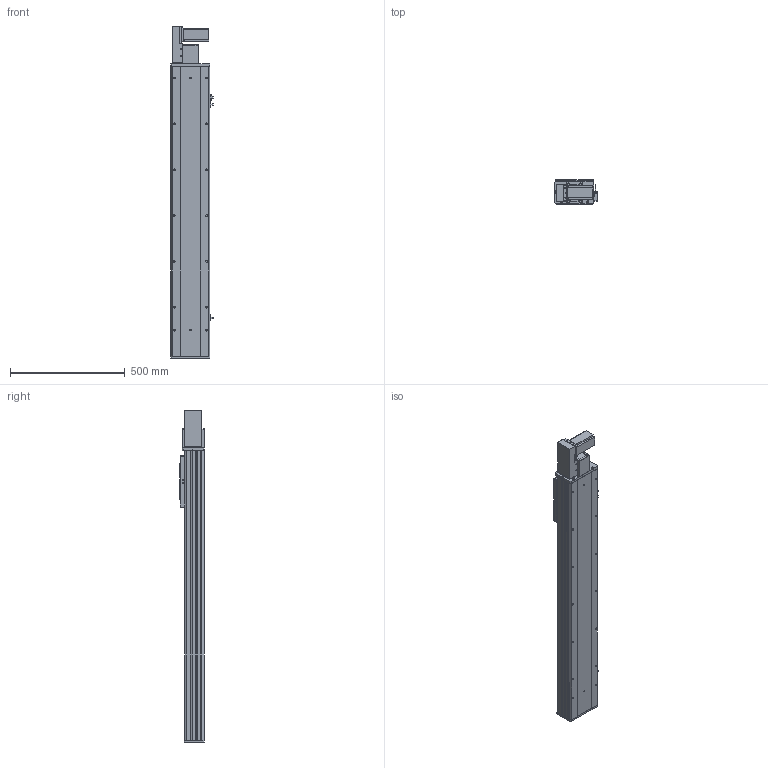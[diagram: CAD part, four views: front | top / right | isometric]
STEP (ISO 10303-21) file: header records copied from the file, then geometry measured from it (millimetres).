
FILE_DESCRIPTION (( 'STEP AP203' ), '1' );
FILE_NAME ('Y170CB-D105-S950-BL-P400W.STEP', '2020-02-20T01:15:26', ( '微软用户' ), ( '微软中国' ), 'SwSTEP 2.0', 'SolidWorks 2017', '' );
FILE_SCHEMA (( 'CONFIG_CONTROL_DESIGN' ));
Length unit declared in the file: millimetre
Products named in the file (18): 70CB-詩湍--; Y70俋欶BR----; Y100-135俋离換覜ん--; 70CB-掛极-; Y170CB-陔俋离換覜結え---; --70CB --喘謫眊楊擘啣-; 70B喘謫眊----; 70CB-耜裔啣-; Y1埴倛裔; 70C--詩湍揤踡え-; B-源倛裔啣; Y170CB-D105-S950-BL-P400W; 70CB--耜裔; 17B-耜蚾蟀諉啣----; 70C-雄赽釱-奻-; 0B-萇儂楊擘啣; 0C--雄赽釱俋欶-170; san松下电机400不带刹车----
Assembly tree (21 placements, depth 2):
  Y170CB-D105-S950-BL-P400W
    B-源倛裔啣
    17B-耜蚾蟀諉啣----
    0B-萇儂楊擘啣
    san松下电机400不带刹车----
    Y70俋欶BR----
    70CB-掛极-
    --70CB --喘謫眊楊擘啣-
    70CB-耜裔啣-  x2
    70C--詩湍揤踡え-  x2
    70CB--耜裔
    70C-雄赽釱-奻-
    0C--雄赽釱俋欶-170
    70CB-詩湍--
    Y100-135俋离換覜ん--  x3
    Y170CB-陔俋离換覜結え---
    70B喘謫眊----
    Y1埴倛裔
Bounding box: 183.5 x 107 x 1447 mm (x, y, z)
Volume: 6340445.6 mm3; surface area: 2269608.5 mm2
Topology: 21 solids, 21 shells, 1007 faces, 2693 edges, 1786 vertices
Faces by surface type: cylinder 519, plane 464, cone 24
Entity records: 32028 total; most frequent: CARTESIAN_POINT 5856, DIRECTION 5206, ORIENTED_EDGE 4868, EDGE_CURVE 2434, AXIS2_PLACEMENT_3D 1904, VERTEX_POINT 1616, LINE 1398, VECTOR 1398
